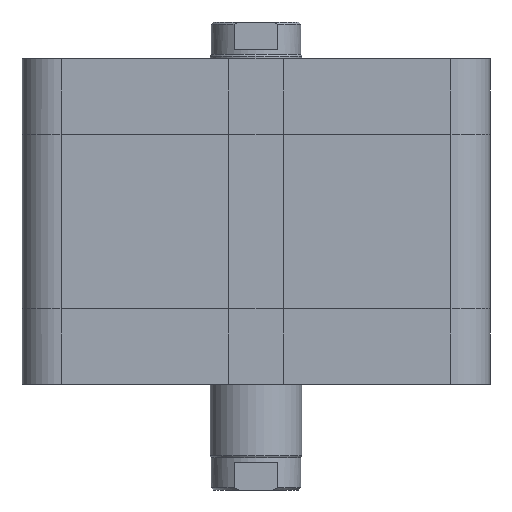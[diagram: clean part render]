
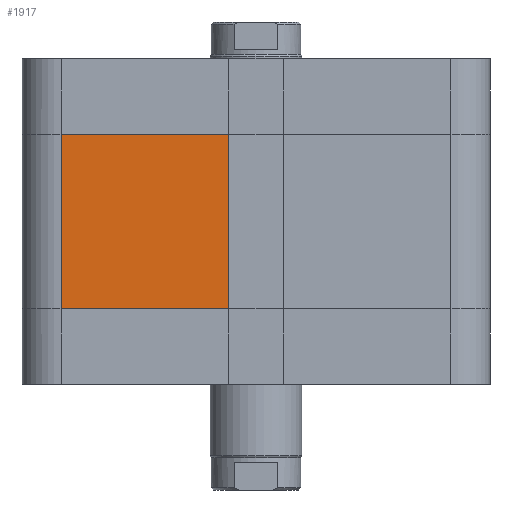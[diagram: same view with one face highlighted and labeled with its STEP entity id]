
A CAD part, front view. The second image highlights one B-rep face of the part: STEP entity #1917.
In plain terms, the highlighted planar face has unit normal (0, -1, 0).
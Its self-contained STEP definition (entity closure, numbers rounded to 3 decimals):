
#1828=CARTESIAN_POINT('',(-42.5,-51.,16.5));
#1829=VERTEX_POINT('',#1828);
#1837=CARTESIAN_POINT('',(-42.5,-51.,54.5));
#1838=VERTEX_POINT('',#1837);
#1839=CARTESIAN_POINT('',(-42.5,-51.,16.5));
#1840=DIRECTION('',(0.0,0.0,1.0));
#1841=VECTOR('',#1840,38.);
#1842=LINE('',#1839,#1841);
#1843=EDGE_CURVE('',#1829,#1838,#1842,.T.);
#1887=CARTESIAN_POINT('',(-6.,-51.0,0.0));
#1888=DIRECTION('',(0.0,-1.0,0.0));
#1889=DIRECTION('',(0.0,0.0,-1.0));
#1890=AXIS2_PLACEMENT_3D('',#1887,#1888,#1889);
#1891=PLANE('',#1890);
#1892=CARTESIAN_POINT('',(-6.,-51.0,16.5));
#1893=VERTEX_POINT('',#1892);
#1894=CARTESIAN_POINT('',(-42.5,-51.,16.5));
#1895=DIRECTION('',(1.0,0.0,0.0));
#1896=VECTOR('',#1895,36.5);
#1897=LINE('',#1894,#1896);
#1898=EDGE_CURVE('',#1829,#1893,#1897,.T.);
#1899=ORIENTED_EDGE('',*,*,#1898,.T.);
#1900=CARTESIAN_POINT('',(-6.,-51.0,54.5));
#1901=VERTEX_POINT('',#1900);
#1902=CARTESIAN_POINT('',(-6.,-51.0,16.5));
#1903=DIRECTION('',(0.0,0.0,1.0));
#1904=VECTOR('',#1903,38.0);
#1905=LINE('',#1902,#1904);
#1906=EDGE_CURVE('',#1893,#1901,#1905,.T.);
#1907=ORIENTED_EDGE('',*,*,#1906,.T.);
#1908=CARTESIAN_POINT('',(-42.5,-51.,54.5));
#1909=DIRECTION('',(1.0,0.0,0.0));
#1910=VECTOR('',#1909,36.5);
#1911=LINE('',#1908,#1910);
#1912=EDGE_CURVE('',#1838,#1901,#1911,.T.);
#1913=ORIENTED_EDGE('',*,*,#1912,.F.);
#1914=ORIENTED_EDGE('',*,*,#1843,.F.);
#1915=EDGE_LOOP('',(#1899,#1907,#1913,#1914));
#1916=FACE_OUTER_BOUND('',#1915,.T.);
#1917=ADVANCED_FACE('',(#1916),#1891,.T.);
